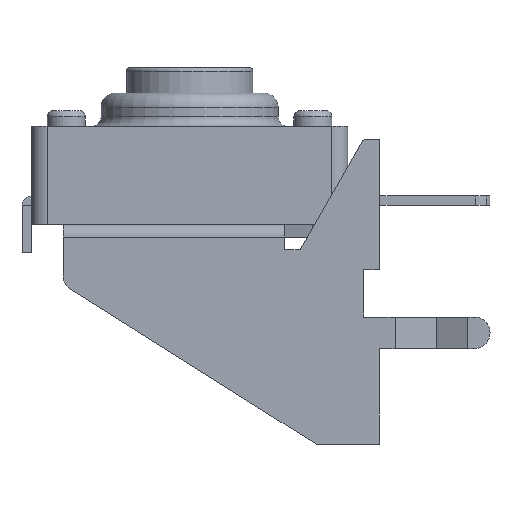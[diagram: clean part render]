
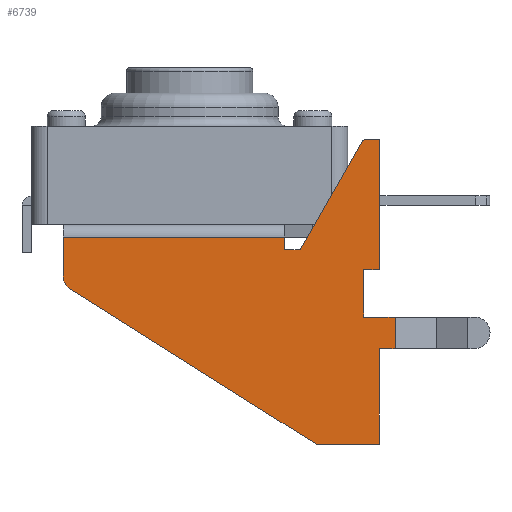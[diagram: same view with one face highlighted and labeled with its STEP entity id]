
A CAD part, front view. The second image highlights one B-rep face of the part: STEP entity #6739.
In plain terms, the highlighted planar face has unit normal (0, -1, 0).
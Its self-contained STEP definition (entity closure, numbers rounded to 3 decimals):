
#503 = EDGE_LOOP ( 'NONE', ( #525, #527, #526, #528, #529, #530, #531, #532, #533, #534, #535, #536, #537, #538, #539, #540, #541 ) ) ;
#525 = ORIENTED_EDGE ( 'NONE', *, *, #6752, .T. ) ;
#526 = ORIENTED_EDGE ( 'NONE', *, *, #6753, .F. ) ;
#527 = ORIENTED_EDGE ( 'NONE', *, *, #6751, .F. ) ;
#528 = ORIENTED_EDGE ( 'NONE', *, *, #6754, .F. ) ;
#529 = ORIENTED_EDGE ( 'NONE', *, *, #6755, .F. ) ;
#530 = ORIENTED_EDGE ( 'NONE', *, *, #6756, .F. ) ;
#531 = ORIENTED_EDGE ( 'NONE', *, *, #6757, .F. ) ;
#532 = ORIENTED_EDGE ( 'NONE', *, *, #6758, .F. ) ;
#533 = ORIENTED_EDGE ( 'NONE', *, *, #6759, .F. ) ;
#534 = ORIENTED_EDGE ( 'NONE', *, *, #6760, .F. ) ;
#535 = ORIENTED_EDGE ( 'NONE', *, *, #6761, .F. ) ;
#536 = ORIENTED_EDGE ( 'NONE', *, *, #6762, .F. ) ;
#537 = ORIENTED_EDGE ( 'NONE', *, *, #6763, .F. ) ;
#538 = ORIENTED_EDGE ( 'NONE', *, *, #6764, .F. ) ;
#539 = ORIENTED_EDGE ( 'NONE', *, *, #6765, .F. ) ;
#540 = ORIENTED_EDGE ( 'NONE', *, *, #6766, .F. ) ;
#541 = ORIENTED_EDGE ( 'NONE', *, *, #6767, .F. ) ;
#642 = VERTEX_POINT ( 'NONE', #2131 ) ;
#643 = VERTEX_POINT ( 'NONE', #2132 ) ;
#644 = VERTEX_POINT ( 'NONE', #2133 ) ;
#645 = VERTEX_POINT ( 'NONE', #2134 ) ;
#646 = VERTEX_POINT ( 'NONE', #2135 ) ;
#647 = VERTEX_POINT ( 'NONE', #2136 ) ;
#648 = VERTEX_POINT ( 'NONE', #2137 ) ;
#649 = VERTEX_POINT ( 'NONE', #2138 ) ;
#650 = VERTEX_POINT ( 'NONE', #2139 ) ;
#651 = VERTEX_POINT ( 'NONE', #2140 ) ;
#652 = VERTEX_POINT ( 'NONE', #2141 ) ;
#653 = VERTEX_POINT ( 'NONE', #2142 ) ;
#654 = VERTEX_POINT ( 'NONE', #2143 ) ;
#655 = VERTEX_POINT ( 'NONE', #2144 ) ;
#656 = VERTEX_POINT ( 'NONE', #2145 ) ;
#657 = VERTEX_POINT ( 'NONE', #2146 ) ;
#658 = VERTEX_POINT ( 'NONE', #2147 ) ;
#2131 = CARTESIAN_POINT ( 'NONE',  ( 6.5, -5.75, -3.93 ) ) ;
#2132 = CARTESIAN_POINT ( 'NONE',  ( 6.5, -5.75, -2.93 ) ) ;
#2133 = CARTESIAN_POINT ( 'NONE',  ( 5.5, -5.75, -2.93 ) ) ;
#2134 = CARTESIAN_POINT ( 'NONE',  ( 5.5, -5.75, -1.43 ) ) ;
#2135 = CARTESIAN_POINT ( 'NONE',  ( 6., -5.75, -1.43 ) ) ;
#2136 = CARTESIAN_POINT ( 'NONE',  ( 6., -5.75, 2.7 ) ) ;
#2137 = CARTESIAN_POINT ( 'NONE',  ( 5.616, -5.75, 2.7 ) ) ;
#2138 = CARTESIAN_POINT ( 'NONE',  ( 5.442, -5.75, 2.599 ) ) ;
#2139 = CARTESIAN_POINT ( 'NONE',  ( 3.5, -5.75, -0.8 ) ) ;
#2140 = CARTESIAN_POINT ( 'NONE',  ( 3., -5.75, -0.8 ) ) ;
#2141 = CARTESIAN_POINT ( 'NONE',  ( 3., -5.75, -0.401 ) ) ;
#2142 = CARTESIAN_POINT ( 'NONE',  ( -4., -5.75, -0.401 ) ) ;
#2143 = CARTESIAN_POINT ( 'NONE',  ( -4., -5.75, -1.625 ) ) ;
#2144 = CARTESIAN_POINT ( 'NONE',  ( -3.767, -5.75, -2.047 ) ) ;
#2145 = CARTESIAN_POINT ( 'NONE',  ( 4., -5.75, -6.95 ) ) ;
#2146 = CARTESIAN_POINT ( 'NONE',  ( 6., -5.75, -6.95 ) ) ;
#2147 = CARTESIAN_POINT ( 'NONE',  ( 6., -5.75, -3.93 ) ) ;
#3136 = CIRCLE ( 'NONE', #5202, 0.2 ) ;
#3137 = CIRCLE ( 'NONE', #5209, 0.5 ) ;
#5169 = FACE_OUTER_BOUND ( 'NONE', #503, .T. ) ;
#5175 = AXIS2_PLACEMENT_3D ( 'NONE', #5931, #5932, #5933 ) ;
#5197 = VECTOR ( 'NONE', #5990, 1000. ) ;
#5198 = VECTOR ( 'NONE', #5993, 1000. ) ;
#5199 = VECTOR ( 'NONE', #5996, 1000. ) ;
#5200 = VECTOR ( 'NONE', #5999, 1000. ) ;
#5201 = VECTOR ( 'NONE', #6002, 1000. ) ;
#5202 = AXIS2_PLACEMENT_3D ( 'NONE', #5978, #6006, #6007 ) ;
#5203 = VECTOR ( 'NONE', #6005, 1000. ) ;
#5204 = VECTOR ( 'NONE', #6011, 1000. ) ;
#5205 = VECTOR ( 'NONE', #6014, 1000. ) ;
#5206 = VECTOR ( 'NONE', #6017, 1000. ) ;
#5208 = VECTOR ( 'NONE', #6020, 1000. ) ;
#5209 = AXIS2_PLACEMENT_3D ( 'NONE', #6008, #6024, #6025 ) ;
#5210 = VECTOR ( 'NONE', #6023, 1000. ) ;
#5211 = VECTOR ( 'NONE', #6029, 1000. ) ;
#5212 = VECTOR ( 'NONE', #6032, 1000. ) ;
#5213 = VECTOR ( 'NONE', #6035, 1000. ) ;
#5214 = VECTOR ( 'NONE', #6038, 1000. ) ;
#5930 = PLANE ( 'NONE',  #5175 ) ;
#5931 = CARTESIAN_POINT ( 'NONE',  ( 5.616, -5.75, 2.5 ) ) ;
#5932 = DIRECTION ( 'NONE',  ( 0., -1., 0. ) ) ;
#5933 = DIRECTION ( 'NONE',  ( 1., 0., 0. ) ) ;
#5978 = CARTESIAN_POINT ( 'NONE',  ( 5.616, -5.75, 2.5 ) ) ;
#5988 = LINE ( 'NONE', #5989, #5197 ) ;
#5989 = CARTESIAN_POINT ( 'NONE',  ( 5.5, -5.75, -2.93 ) ) ;
#5990 = DIRECTION ( 'NONE',  ( 1., 0., 0. ) ) ;
#5991 = LINE ( 'NONE', #5992, #5198 ) ;
#5992 = CARTESIAN_POINT ( 'NONE',  ( 6.5, -5.75, -6.95 ) ) ;
#5993 = DIRECTION ( 'NONE',  ( 0., 0., 1. ) ) ;
#5994 = LINE ( 'NONE', #5995, #5199 ) ;
#5995 = CARTESIAN_POINT ( 'NONE',  ( 5.5, -5.75, -1.43 ) ) ;
#5996 = DIRECTION ( 'NONE',  ( 0., 0., -1. ) ) ;
#5997 = LINE ( 'NONE', #5998, #5200 ) ;
#5998 = CARTESIAN_POINT ( 'NONE',  ( 6., -5.75, -1.43 ) ) ;
#5999 = DIRECTION ( 'NONE',  ( -1., 0., 0. ) ) ;
#6000 = LINE ( 'NONE', #6001, #5201 ) ;
#6001 = CARTESIAN_POINT ( 'NONE',  ( 6., -5.75, 2.7 ) ) ;
#6002 = DIRECTION ( 'NONE',  ( 0., 0., -1. ) ) ;
#6003 = LINE ( 'NONE', #6004, #5203 ) ;
#6004 = CARTESIAN_POINT ( 'NONE',  ( 5.616, -5.75, 2.7 ) ) ;
#6005 = DIRECTION ( 'NONE',  ( 1., 0., 0. ) ) ;
#6006 = DIRECTION ( 'NONE',  ( 0., 1., 0. ) ) ;
#6007 = DIRECTION ( 'NONE',  ( 1., 0., 0. ) ) ;
#6008 = CARTESIAN_POINT ( 'NONE',  ( -3.5, -5.75, -1.625 ) ) ;
#6009 = LINE ( 'NONE', #6010, #5204 ) ;
#6010 = CARTESIAN_POINT ( 'NONE',  ( 3.5, -5.75, -0.8 ) ) ;
#6011 = DIRECTION ( 'NONE',  ( 0.496, 0., 0.868 ) ) ;
#6012 = LINE ( 'NONE', #6013, #5205 ) ;
#6013 = CARTESIAN_POINT ( 'NONE',  ( 3., -5.75, -0.8 ) ) ;
#6014 = DIRECTION ( 'NONE',  ( 1., 0., 0. ) ) ;
#6015 = LINE ( 'NONE', #6016, #5206 ) ;
#6016 = CARTESIAN_POINT ( 'NONE',  ( 3., -5.75, 0.164 ) ) ;
#6017 = DIRECTION ( 'NONE',  ( 0., 0., -1. ) ) ;
#6018 = LINE ( 'NONE', #6019, #5208 ) ;
#6019 = CARTESIAN_POINT ( 'NONE',  ( 5.616, -5.75, -0.401 ) ) ;
#6020 = DIRECTION ( 'NONE',  ( 1., 0., 0. ) ) ;
#6021 = LINE ( 'NONE', #6022, #5210 ) ;
#6022 = CARTESIAN_POINT ( 'NONE',  ( -4., -5.75, 3.564 ) ) ;
#6023 = DIRECTION ( 'NONE',  ( 0., 0., 1. ) ) ;
#6024 = DIRECTION ( 'NONE',  ( 0., 1., 0. ) ) ;
#6025 = DIRECTION ( 'NONE',  ( -1., 0., 0. ) ) ;
#6027 = LINE ( 'NONE', #6028, #5211 ) ;
#6028 = CARTESIAN_POINT ( 'NONE',  ( -3.767, -5.75, -2.047 ) ) ;
#6029 = DIRECTION ( 'NONE',  ( -0.846, 0., 0.534 ) ) ;
#6030 = LINE ( 'NONE', #6031, #5212 ) ;
#6031 = CARTESIAN_POINT ( 'NONE',  ( 4., -5.75, -6.95 ) ) ;
#6032 = DIRECTION ( 'NONE',  ( -1., 0., 0. ) ) ;
#6033 = LINE ( 'NONE', #6034, #5213 ) ;
#6034 = CARTESIAN_POINT ( 'NONE',  ( 6., -5.75, -6.95 ) ) ;
#6035 = DIRECTION ( 'NONE',  ( 0., 0., -1. ) ) ;
#6036 = LINE ( 'NONE', #6037, #5214 ) ;
#6037 = CARTESIAN_POINT ( 'NONE',  ( 9., -5.75, -3.93 ) ) ;
#6038 = DIRECTION ( 'NONE',  ( -1., 0., 0. ) ) ;
#6739 = ADVANCED_FACE ( 'NONE', ( #5169 ), #5930, .T. ) ;
#6751 = EDGE_CURVE ( 'NONE', #644, #643, #5988, .T. ) ;
#6752 = EDGE_CURVE ( 'NONE', #642, #643, #5991, .T. ) ;
#6753 = EDGE_CURVE ( 'NONE', #645, #644, #5994, .T. ) ;
#6754 = EDGE_CURVE ( 'NONE', #646, #645, #5997, .T. ) ;
#6755 = EDGE_CURVE ( 'NONE', #647, #646, #6000, .T. ) ;
#6756 = EDGE_CURVE ( 'NONE', #648, #647, #6003, .T. ) ;
#6757 = EDGE_CURVE ( 'NONE', #649, #648, #3136, .T. ) ;
#6758 = EDGE_CURVE ( 'NONE', #650, #649, #6009, .T. ) ;
#6759 = EDGE_CURVE ( 'NONE', #651, #650, #6012, .T. ) ;
#6760 = EDGE_CURVE ( 'NONE', #652, #651, #6015, .T. ) ;
#6761 = EDGE_CURVE ( 'NONE', #653, #652, #6018, .T. ) ;
#6762 = EDGE_CURVE ( 'NONE', #654, #653, #6021, .T. ) ;
#6763 = EDGE_CURVE ( 'NONE', #655, #654, #3137, .T. ) ;
#6764 = EDGE_CURVE ( 'NONE', #656, #655, #6027, .T. ) ;
#6765 = EDGE_CURVE ( 'NONE', #657, #656, #6030, .T. ) ;
#6766 = EDGE_CURVE ( 'NONE', #658, #657, #6033, .T. ) ;
#6767 = EDGE_CURVE ( 'NONE', #642, #658, #6036, .T. ) ;
